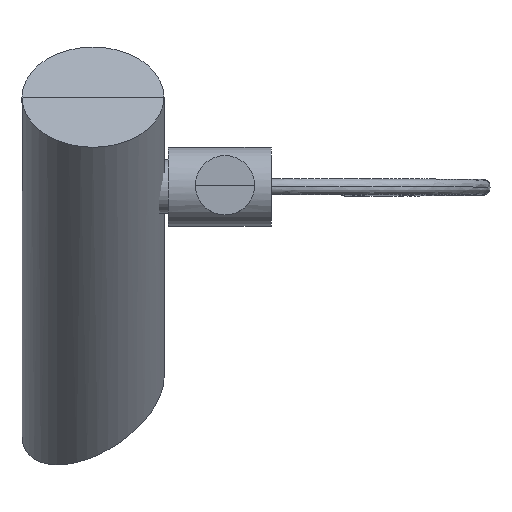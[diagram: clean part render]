
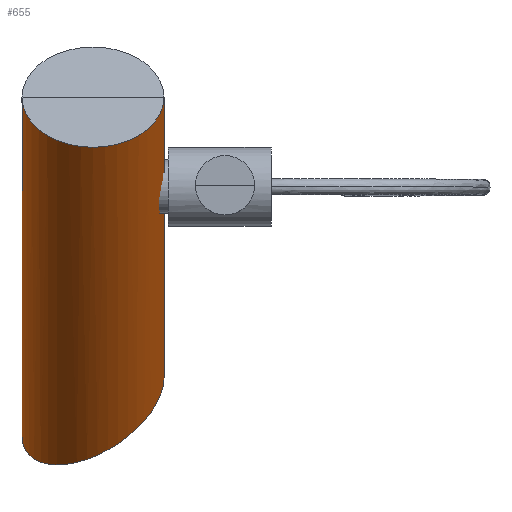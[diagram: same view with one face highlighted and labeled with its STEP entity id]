
A CAD part, top view. The second image highlights one B-rep face of the part: STEP entity #655.
In plain terms, the highlighted cylindrical face has radius 17.994 mm (diameter 35.987 mm), a partial arc.
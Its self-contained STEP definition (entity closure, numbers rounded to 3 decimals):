
#49=ELLIPSE('',#731,20.777,17.994);
#78=CYLINDRICAL_SURFACE('',#737,17.994);
#111=FACE_OUTER_BOUND('',#163,.T.);
#163=EDGE_LOOP('',(#512,#513,#514,#515));
#211=CIRCLE('',#738,17.994);
#244=LINE('',#1100,#280);
#245=LINE('',#1101,#281);
#280=VECTOR('',#899,304.8);
#281=VECTOR('',#900,304.8);
#316=VERTEX_POINT('',#1088);
#317=VERTEX_POINT('',#1089);
#320=VERTEX_POINT('',#1097);
#321=VERTEX_POINT('',#1098);
#382=EDGE_CURVE('',#316,#317,#49,.T.);
#387=EDGE_CURVE('',#317,#320,#244,.T.);
#388=EDGE_CURVE('',#321,#316,#245,.T.);
#389=EDGE_CURVE('',#321,#320,#211,.T.);
#512=ORIENTED_EDGE('',*,*,#389,.F.);
#513=ORIENTED_EDGE('',*,*,#388,.T.);
#514=ORIENTED_EDGE('',*,*,#382,.T.);
#515=ORIENTED_EDGE('',*,*,#387,.T.);
#655=ADVANCED_FACE('',(#111),#78,.T.);
#731=AXIS2_PLACEMENT_3D('',#1090,#887,#888);
#737=AXIS2_PLACEMENT_3D('',#1102,#901,#902);
#738=AXIS2_PLACEMENT_3D('',#1103,#903,#904);
#887=DIRECTION('center_axis',(0.612,-0.612,0.5));
#888=DIRECTION('ref_axis',(-0.354,0.354,0.866));
#899=DIRECTION('',(0.707,-0.707,0.));
#900=DIRECTION('',(-0.707,0.707,0.));
#901=DIRECTION('center_axis',(0.707,-0.707,0.));
#902=DIRECTION('ref_axis',(0.,0.,1.));
#903=DIRECTION('center_axis',(0.707,-0.707,0.));
#904=DIRECTION('ref_axis',(0.,0.,1.));
#1088=CARTESIAN_POINT('',(-63.063,63.063,63.165));
#1089=CARTESIAN_POINT('',(-48.372,48.372,27.177));
#1090=CARTESIAN_POINT('Origin',(-55.717,55.717,45.171));
#1097=CARTESIAN_POINT('',(22.664,-22.664,27.177));
#1098=CARTESIAN_POINT('',(22.664,-22.664,63.165));
#1100=CARTESIAN_POINT('',(-48.372,48.372,27.177));
#1101=CARTESIAN_POINT('',(22.664,-22.664,63.165));
#1102=CARTESIAN_POINT('Origin',(-33.403,33.403,45.171));
#1103=CARTESIAN_POINT('Origin',(22.664,-22.664,45.171));
